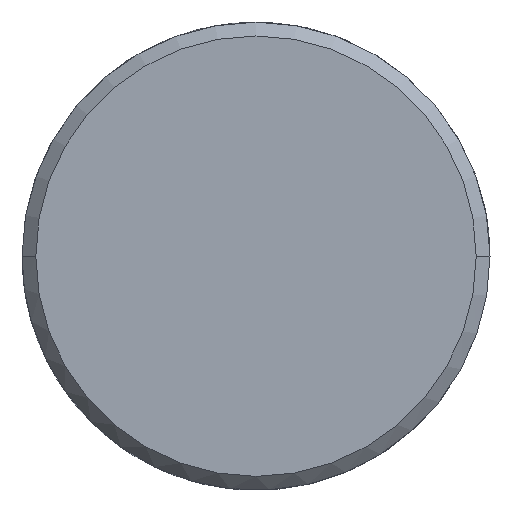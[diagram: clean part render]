
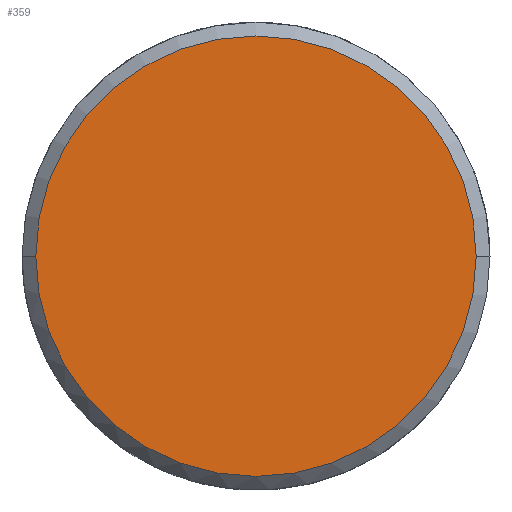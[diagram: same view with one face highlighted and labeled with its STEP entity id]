
A CAD part, left-side view. The second image highlights one B-rep face of the part: STEP entity #359.
In plain terms, the highlighted planar face has unit normal (-1, 0, 0).
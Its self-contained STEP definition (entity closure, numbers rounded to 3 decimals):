
#311=CARTESIAN_POINT('Vertex',(-6.,11.293,0.)) ;
#314=CARTESIAN_POINT('Axis2P3D Location',(-6.,0.,0.)) ;
#318=CARTESIAN_POINT('Vertex',(-6.,-11.293,0.)) ;
#338=CARTESIAN_POINT('Axis2P3D Location',(-6.,0.,0.)) ;
#350=CARTESIAN_POINT('Axis2P3D Location',(-6.,0.,0.)) ;
#315=DIRECTION('Axis2P3D Direction',(1.,0.,-0.)) ;
#339=DIRECTION('Axis2P3D Direction',(1.,0.,-0.)) ;
#351=DIRECTION('Axis2P3D Direction',(1.,0.,-0.)) ;
#352=DIRECTION('Axis2P3D XDirection',(0.,1.,0.)) ;
#316=AXIS2_PLACEMENT_3D('Circle Axis2P3D',#314,#315,$) ;
#340=AXIS2_PLACEMENT_3D('Circle Axis2P3D',#338,#339,$) ;
#353=AXIS2_PLACEMENT_3D('Plane Axis2P3D',#350,#351,#352) ;
#356=ORIENTED_EDGE('',*,*,#342,.F.) ;
#357=ORIENTED_EDGE('',*,*,#320,.F.) ;
#359=ADVANCED_FACE('382F-24',(#358),#354,.F.) ;
#317=CIRCLE('generated circle',#316,11.293) ;
#341=CIRCLE('generated circle',#340,11.293) ;
#320=EDGE_CURVE('',#312,#319,#317,.T.) ;
#342=EDGE_CURVE('',#319,#312,#341,.T.) ;
#355=EDGE_LOOP('',(#356,#357)) ;
#358=FACE_OUTER_BOUND('',#355,.T.) ;
#354=PLANE('Plane',#353) ;
#312=VERTEX_POINT('',#311) ;
#319=VERTEX_POINT('',#318) ;
